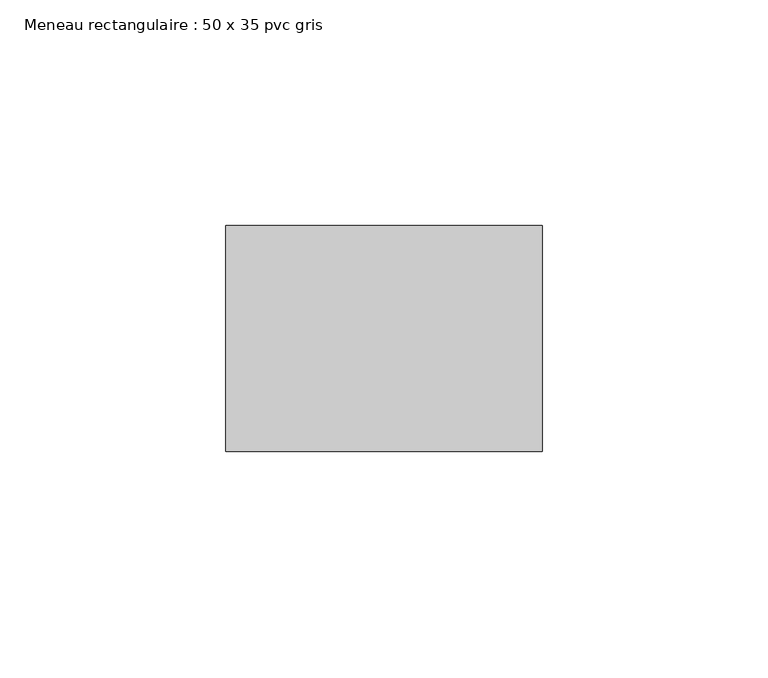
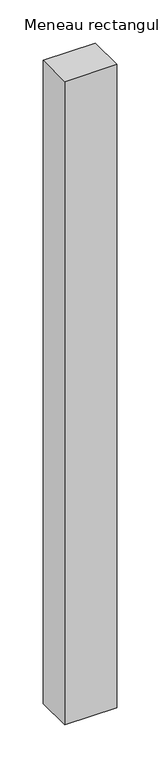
"""IFC4 building model written with IfcOpenShell, lengths in millimetres: member geometry, Meneau rectangulaire : 50 x 35 pvc gris."""

import ifcopenshell
import ifcopenshell.guid

model = None  # the IFC model being written
_history = None  # IfcOwnerHistory: only IFC2X3 demands one
_inside = {}  # id of a spatial element -> (the spatial element, [elements in it])
_under = {}  # id of a project, library or spatial element -> (it, [spatial elements below it])
_declared = {}  # id of a project -> (the project, [libraries it declares])
_typed = {}  # id of a type object -> (the type object, [elements of that type])
_made_of = {}  # id of a material, layer set ... -> (it, [elements and type objects made of it])


def new_model(schema):
    """Start an empty IFC model of exactly this schema.

    Asked for "IFC4X3", IfcOpenShell would pick the latest addendum, in which some entities
    have other attributes; the version numbers below select the first issue.
    IFC2X3 requires an IfcOwnerHistory on every rooted entity: one is made here for all.
    """
    global model, _history
    if schema == "IFC4X3":
        model = ifcopenshell.file(schema_version=(4, 3, 0, 0))
    else:
        model = ifcopenshell.file(schema=schema)
    _inside.clear()
    _under.clear()
    _declared.clear()
    _typed.clear()
    _made_of.clear()
    _history = None
    if model.schema == "IFC2X3":
        org = make("IfcOrganization", Name="unknown")
        user = make(
            "IfcPersonAndOrganization",
            ThePerson=make("IfcPerson", FamilyName="unknown"),
            TheOrganization=org,
        )
        app = make(
            "IfcApplication",
            ApplicationDeveloper=org,
            Version="unknown",
            ApplicationFullName="unknown",
            ApplicationIdentifier="unknown",
        )
        _history = make(
            "IfcOwnerHistory",
            OwningUser=user,
            OwningApplication=app,
            ChangeAction="ADDED",
            CreationDate=0,
        )
    return model


def make(cls, **values):
    """One entity of the class cls with the attributes given. An attribute that is None is left unset."""
    return model.create_entity(
        cls, **{name: value for name, value in values.items() if value is not None}
    )


def rooted(cls, **values):
    """An entity with a GlobalId (a new one), such as an element, a storey or a relation."""
    return make(cls, GlobalId=ifcopenshell.guid.new(), OwnerHistory=_history, **values)


def si_unit(unit_type, name, prefix=None):
    """IfcSIUnit, for example si_unit("LENGTHUNIT", "METRE", prefix="MILLI")."""
    return make("IfcSIUnit", UnitType=unit_type, Prefix=prefix, Name=name)


def assignment(units):
    """IfcUnitAssignment: the units of a project."""
    return None if units is None else make("IfcUnitAssignment", Units=units)


def point(xyz):
    """IfcCartesianPoint."""
    return None if xyz is None else make("IfcCartesianPoint", Coordinates=xyz)


def direction(xyz):
    """IfcDirection."""
    return None if xyz is None else make("IfcDirection", DirectionRatios=xyz)


def frame(location, z_axis=None, x_axis=None):
    """IfcAxis2Placement3D, a coordinate frame: its origin and axes. An axis left out is left unset."""
    return make(
        "IfcAxis2Placement3D",
        Location=point(location),
        Axis=direction(z_axis),
        RefDirection=direction(x_axis),
    )


def origin():
    """The frame at (0, 0, 0) with its axes left unset."""
    return frame((0.0, 0.0, 0.0))


def place(relative_to, where):
    """IfcLocalPlacement: puts the frame where relative to a parent placement (None: the world)."""
    return make(
        "IfcLocalPlacement", PlacementRelTo=relative_to, RelativePlacement=where
    )


def context(
    kind, dimensions, precision=None, world=None, true_north=None, identifier=None
):
    """IfcGeometricRepresentationContext, for example the 3D "Model" context."""
    return make(
        "IfcGeometricRepresentationContext",
        ContextIdentifier=identifier,
        ContextType=kind,
        CoordinateSpaceDimension=dimensions,
        Precision=precision,
        WorldCoordinateSystem=world,
        TrueNorth=true_north,
    )


def project(units=None, contexts=None):
    """IfcProject with its units and contexts."""
    return rooted(
        "IfcProject",
        Name="project",
        RepresentationContexts=contexts,
        UnitsInContext=assignment(units),
    )


def spatial(cls, under=None, at=None, **own):
    """A site, building, storey or space (cls), placed at a placement, below another one or the project."""
    s = rooted(cls, ObjectPlacement=at, **own)
    if under is not None:
        _under.setdefault(under.id(), (under, []))[1].append(s)
    return s


def polyline(points):
    """IfcPolyline through the points."""
    return make("IfcPolyline", Points=[point(p) for p in points])


def outline(outer, holes=None, kind="AREA"):
    """IfcArbitraryClosedProfileDef: a profile drawn as a closed curve; with holes, ...WithVoids."""
    if holes is None:
        return make("IfcArbitraryClosedProfileDef", ProfileType=kind, OuterCurve=outer)
    return make(
        "IfcArbitraryProfileDefWithVoids",
        ProfileType=kind,
        OuterCurve=outer,
        InnerCurves=holes,
    )


def extrude(swept, where, along, depth):
    """IfcExtrudedAreaSolid: the profile swept, set in the frame where, extruded along a direction by depth."""
    return make(
        "IfcExtrudedAreaSolid",
        SweptArea=swept,
        Position=where,
        ExtrudedDirection=direction(along),
        Depth=depth,
    )


def shape(context_of_items, identifier, shape_type, items):
    """IfcShapeRepresentation: the items that make up one representation, for example the "Body"."""
    return make(
        "IfcShapeRepresentation",
        ContextOfItems=context_of_items,
        RepresentationIdentifier=identifier,
        RepresentationType=shape_type,
        Items=items,
    )


def source(mapping_origin, context_of_items, identifier, shape_type, items):
    """IfcRepresentationMap: a shape defined once, which mapped items show again and again."""
    return make(
        "IfcRepresentationMap",
        MappingOrigin=mapping_origin,
        MappedRepresentation=shape(context_of_items, identifier, shape_type, items),
    )


def transform(
    local_origin,
    x_axis=None,
    y_axis=None,
    z_axis=None,
    scale=None,
    scale2=None,
    scale3=None,
    uniform=True,
):
    """IfcCartesianTransformationOperator3D, or its non-uniform kind. x_axis, y_axis, z_axis: its Axis1, 2, 3."""
    if uniform:
        return make(
            "IfcCartesianTransformationOperator3D",
            Axis1=direction(x_axis),
            Axis2=direction(y_axis),
            LocalOrigin=point(local_origin),
            Scale=scale,
            Axis3=direction(z_axis),
        )
    return make(
        "IfcCartesianTransformationOperator3DnonUniform",
        Axis1=direction(x_axis),
        Axis2=direction(y_axis),
        LocalOrigin=point(local_origin),
        Scale=scale,
        Axis3=direction(z_axis),
        Scale2=scale2,
        Scale3=scale3,
    )


def mapped(mapping_source, mapping_target):
    """IfcMappedItem: shows the shape of a source again, moved by a transform."""
    return make(
        "IfcMappedItem", MappingSource=mapping_source, MappingTarget=mapping_target
    )


def made_of(thing, what):
    """Note that an element or type object is made of a material, layer set ...; save() writes the relation."""
    if what is not None:
        _made_of.setdefault(what.id(), (what, []))[1].append(thing)
    return thing


def element(
    cls,
    number,
    at=None,
    inside=None,
    cuts=None,
    type_object=None,
    material=None,
    context=None,
    identifier="Body",
    shape_type=None,
    held_by="IfcProductDefinitionShape",
    body=None,
    shapes=None,
    **own,
):
    """One element of the class cls, such as IfcWall. Its Tag is "e" and its number.

    at: its placement. inside: the storey or other place that contains it. cuts: it is an
    opening in that element (IfcRelVoidsElement). A single representation is given by context,
    identifier, shape_type and body (its items); several are given by shapes. held_by: the class
    of the entity that holds the representations. save() writes the other relations.
    """
    e = rooted(cls, Tag="e%d" % number, ObjectPlacement=at, **own)
    if body is not None:
        shapes = [shape(context, identifier, shape_type, body)]
    if shapes is not None:
        e.Representation = make(held_by, Representations=shapes)
    if inside is not None:
        _inside.setdefault(inside.id(), (inside, []))[1].append(e)
    if cuts is not None:
        rooted(
            "IfcRelVoidsElement", RelatingBuildingElement=cuts, RelatedOpeningElement=e
        )
    if type_object is not None:
        _typed.setdefault(type_object.id(), (type_object, []))[1].append(e)
    return made_of(e, material)


def aggregate(whole, parts):
    """IfcRelAggregates: a whole, such as a stair, and the parts it consists of."""
    return rooted("IfcRelAggregates", RelatingObject=whole, RelatedObjects=parts)


def save(model, path):
    """Write the relations noted so far, then the file.

    IfcRelAggregates (storeys below a building ...), IfcRelContainedInSpatialStructure (elements
    in a storey), IfcRelDefinesByType, IfcRelAssociatesMaterial and IfcRelDeclares: one each for
    every whole, place, type object, material and project.
    """
    for whole, parts in _under.values():
        aggregate(whole, parts)
    for where, things in _inside.values():
        rooted(
            "IfcRelContainedInSpatialStructure",
            RelatedElements=things,
            RelatingStructure=where,
        )
    for kind, things in _typed.values():
        rooted("IfcRelDefinesByType", RelatedObjects=things, RelatingType=kind)
    for what, things in _made_of.values():
        rooted("IfcRelAssociatesMaterial", RelatedObjects=things, RelatingMaterial=what)
    for by, libraries in _declared.values():
        rooted("IfcRelDeclares", RelatingContext=by, RelatedDefinitions=libraries)
    model.write(path)


def meneau_rectangulaire_50_x_35_pvc_gris_09fb344f(model_context):
    return source(origin(), model_context, "Body", "SweptSolid", [
        extrude(outline(polyline([(35.0, 0.0), (35.0, -50.0), (-35.0, -50.0), (-35.0, 0.0), (35.0, 0.0)])), frame((0.0, 0.0, -912.6918158), z_axis=(0.0, 0.0, 1.0), x_axis=(1.0, 0.0, 0.0)), (0.0, 0.0, 1.0), 912.6918158),
    ])


if __name__ == "__main__":
    model = new_model("IFC4")
    model_context = context("Model", 3, world=origin())
    ifc_project = project(units=[si_unit("LENGTHUNIT", "METRE", prefix="MILLI")], contexts=[model_context])
    site = spatial("IfcSite", under=ifc_project)
    building = spatial("IfcBuilding", under=site)
    placement = place(None, origin())
    meneau_rectangulaire_50_x_35_pvc_gris_shape = meneau_rectangulaire_50_x_35_pvc_gris_09fb344f(model_context)
    element("IfcMember", 1, ObjectType="Meneau rectangulaire : 50 x 35 pvc gris", at=placement, inside=building, context=model_context, shape_type="MappedRepresentation", body=[
        mapped(meneau_rectangulaire_50_x_35_pvc_gris_shape, transform((0.0, 0.0, 0.0), x_axis=(1.0, 0.0, 0.0), y_axis=(0.0, 1.0, 0.0), z_axis=(0.0, 0.0, 1.0))),
    ])
    save(model, "model.ifc")
